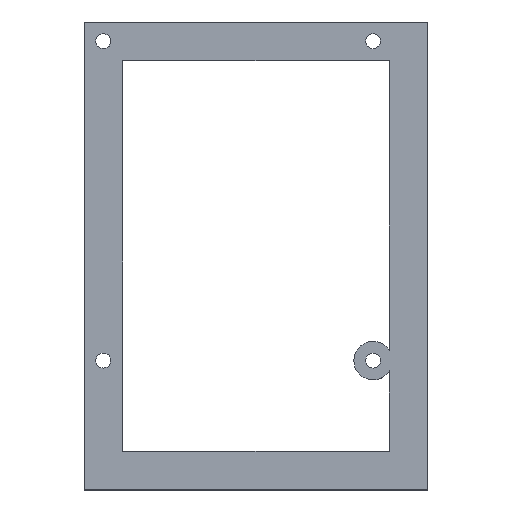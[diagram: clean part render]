
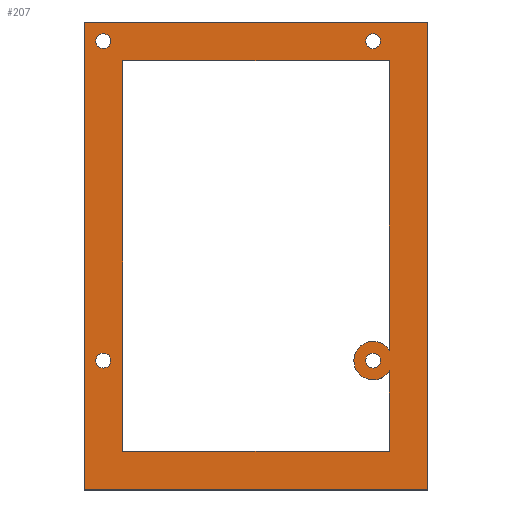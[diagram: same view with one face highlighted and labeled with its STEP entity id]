
A CAD part, top view. The second image highlights one B-rep face of the part: STEP entity #207.
In plain terms, the highlighted planar face has unit normal (0, 0, 1).
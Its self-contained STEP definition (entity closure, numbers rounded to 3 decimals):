
#32 = VERTEX_POINT('',#33);
#33 = CARTESIAN_POINT('',(62.464,0.,2.4));
#39 = EDGE_CURVE('',#40,#32,#42,.T.);
#40 = VERTEX_POINT('',#41);
#41 = CARTESIAN_POINT('',(0.,0.,2.4));
#42 = LINE('',#43,#44);
#43 = CARTESIAN_POINT('',(0.,0.,2.4));
#44 = VECTOR('',#45,1.);
#45 = DIRECTION('',(1.,0.,-0.));
#190 = VERTEX_POINT('',#191);
#191 = CARTESIAN_POINT('',(62.464,85.,2.4));
#197 = EDGE_CURVE('',#32,#190,#198,.T.);
#198 = LINE('',#199,#200);
#199 = CARTESIAN_POINT('',(62.464,0.,2.4));
#200 = VECTOR('',#201,1.);
#201 = DIRECTION('',(-0.,1.,0.));
#207 = ADVANCED_FACE('',(#208,#226,#237,#248,#299,#310),#321,.T.);
#208 = FACE_BOUND('',#209,.T.);
#209 = EDGE_LOOP('',(#210,#218,#219,#220));
#210 = ORIENTED_EDGE('',*,*,#211,.F.);
#211 = EDGE_CURVE('',#40,#212,#214,.T.);
#212 = VERTEX_POINT('',#213);
#213 = CARTESIAN_POINT('',(0.,85.,2.4));
#214 = LINE('',#215,#216);
#215 = CARTESIAN_POINT('',(0.,0.,2.4));
#216 = VECTOR('',#217,1.);
#217 = DIRECTION('',(-0.,1.,0.));
#218 = ORIENTED_EDGE('',*,*,#39,.T.);
#219 = ORIENTED_EDGE('',*,*,#197,.T.);
#220 = ORIENTED_EDGE('',*,*,#221,.F.);
#221 = EDGE_CURVE('',#212,#190,#222,.T.);
#222 = LINE('',#223,#224);
#223 = CARTESIAN_POINT('',(0.,85.,2.4));
#224 = VECTOR('',#225,1.);
#225 = DIRECTION('',(1.,0.,-0.));
#226 = FACE_BOUND('',#227,.T.);
#227 = EDGE_LOOP('',(#228));
#228 = ORIENTED_EDGE('',*,*,#229,.F.);
#229 = EDGE_CURVE('',#230,#230,#232,.T.);
#230 = VERTEX_POINT('',#231);
#231 = CARTESIAN_POINT('',(4.85,23.5,2.4));
#232 = CIRCLE('',#233,1.35);
#233 = AXIS2_PLACEMENT_3D('',#234,#235,#236);
#234 = CARTESIAN_POINT('',(3.5,23.5,2.4));
#235 = DIRECTION('',(0.,0.,1.));
#236 = DIRECTION('',(1.,0.,-0.));
#237 = FACE_BOUND('',#238,.T.);
#238 = EDGE_LOOP('',(#239));
#239 = ORIENTED_EDGE('',*,*,#240,.F.);
#240 = EDGE_CURVE('',#241,#241,#243,.T.);
#241 = VERTEX_POINT('',#242);
#242 = CARTESIAN_POINT('',(53.85,23.5,2.4));
#243 = CIRCLE('',#244,1.35);
#244 = AXIS2_PLACEMENT_3D('',#245,#246,#247);
#245 = CARTESIAN_POINT('',(52.5,23.5,2.4));
#246 = DIRECTION('',(0.,0.,1.));
#247 = DIRECTION('',(1.,0.,-0.));
#248 = FACE_BOUND('',#249,.T.);
#249 = EDGE_LOOP('',(#250,#260,#268,#276,#285,#293));
#250 = ORIENTED_EDGE('',*,*,#251,.T.);
#251 = EDGE_CURVE('',#252,#254,#256,.T.);
#252 = VERTEX_POINT('',#253);
#253 = CARTESIAN_POINT('',(7.,7.,2.4));
#254 = VERTEX_POINT('',#255);
#255 = CARTESIAN_POINT('',(7.,78.,2.4));
#256 = LINE('',#257,#258);
#257 = CARTESIAN_POINT('',(7.,0.,2.4));
#258 = VECTOR('',#259,1.);
#259 = DIRECTION('',(-0.,1.,0.));
#260 = ORIENTED_EDGE('',*,*,#261,.T.);
#261 = EDGE_CURVE('',#254,#262,#264,.T.);
#262 = VERTEX_POINT('',#263);
#263 = CARTESIAN_POINT('',(55.464,78.,2.4));
#264 = LINE('',#265,#266);
#265 = CARTESIAN_POINT('',(0.,78.,2.4));
#266 = VECTOR('',#267,1.);
#267 = DIRECTION('',(1.,0.,-0.));
#268 = ORIENTED_EDGE('',*,*,#269,.F.);
#269 = EDGE_CURVE('',#270,#262,#272,.T.);
#270 = VERTEX_POINT('',#271);
#271 = CARTESIAN_POINT('',(55.464,25.361,2.4));
#272 = LINE('',#273,#274);
#273 = CARTESIAN_POINT('',(55.464,0.,2.4));
#274 = VECTOR('',#275,1.);
#275 = DIRECTION('',(-0.,1.,0.));
#276 = ORIENTED_EDGE('',*,*,#277,.T.);
#277 = EDGE_CURVE('',#270,#278,#280,.T.);
#278 = VERTEX_POINT('',#279);
#279 = CARTESIAN_POINT('',(55.464,21.639,2.4));
#280 = CIRCLE('',#281,3.5);
#281 = AXIS2_PLACEMENT_3D('',#282,#283,#284);
#282 = CARTESIAN_POINT('',(52.5,23.5,2.4));
#283 = DIRECTION('',(0.,0.,1.));
#284 = DIRECTION('',(1.,0.,-0.));
#285 = ORIENTED_EDGE('',*,*,#286,.F.);
#286 = EDGE_CURVE('',#287,#278,#289,.T.);
#287 = VERTEX_POINT('',#288);
#288 = CARTESIAN_POINT('',(55.464,7.,2.4));
#289 = LINE('',#290,#291);
#290 = CARTESIAN_POINT('',(55.464,0.,2.4));
#291 = VECTOR('',#292,1.);
#292 = DIRECTION('',(-0.,1.,0.));
#293 = ORIENTED_EDGE('',*,*,#294,.F.);
#294 = EDGE_CURVE('',#252,#287,#295,.T.);
#295 = LINE('',#296,#297);
#296 = CARTESIAN_POINT('',(0.,7.,2.4));
#297 = VECTOR('',#298,1.);
#298 = DIRECTION('',(1.,0.,-0.));
#299 = FACE_BOUND('',#300,.T.);
#300 = EDGE_LOOP('',(#301));
#301 = ORIENTED_EDGE('',*,*,#302,.F.);
#302 = EDGE_CURVE('',#303,#303,#305,.T.);
#303 = VERTEX_POINT('',#304);
#304 = CARTESIAN_POINT('',(4.85,81.5,2.4));
#305 = CIRCLE('',#306,1.35);
#306 = AXIS2_PLACEMENT_3D('',#307,#308,#309);
#307 = CARTESIAN_POINT('',(3.5,81.5,2.4));
#308 = DIRECTION('',(0.,0.,1.));
#309 = DIRECTION('',(1.,0.,-0.));
#310 = FACE_BOUND('',#311,.T.);
#311 = EDGE_LOOP('',(#312));
#312 = ORIENTED_EDGE('',*,*,#313,.F.);
#313 = EDGE_CURVE('',#314,#314,#316,.T.);
#314 = VERTEX_POINT('',#315);
#315 = CARTESIAN_POINT('',(53.85,81.5,2.4));
#316 = CIRCLE('',#317,1.35);
#317 = AXIS2_PLACEMENT_3D('',#318,#319,#320);
#318 = CARTESIAN_POINT('',(52.5,81.5,2.4));
#319 = DIRECTION('',(0.,0.,1.));
#320 = DIRECTION('',(1.,0.,-0.));
#321 = PLANE('',#322);
#322 = AXIS2_PLACEMENT_3D('',#323,#324,#325);
#323 = CARTESIAN_POINT('',(31.232,42.5,2.4));
#324 = DIRECTION('',(0.,0.,1.));
#325 = DIRECTION('',(1.,0.,-0.));
